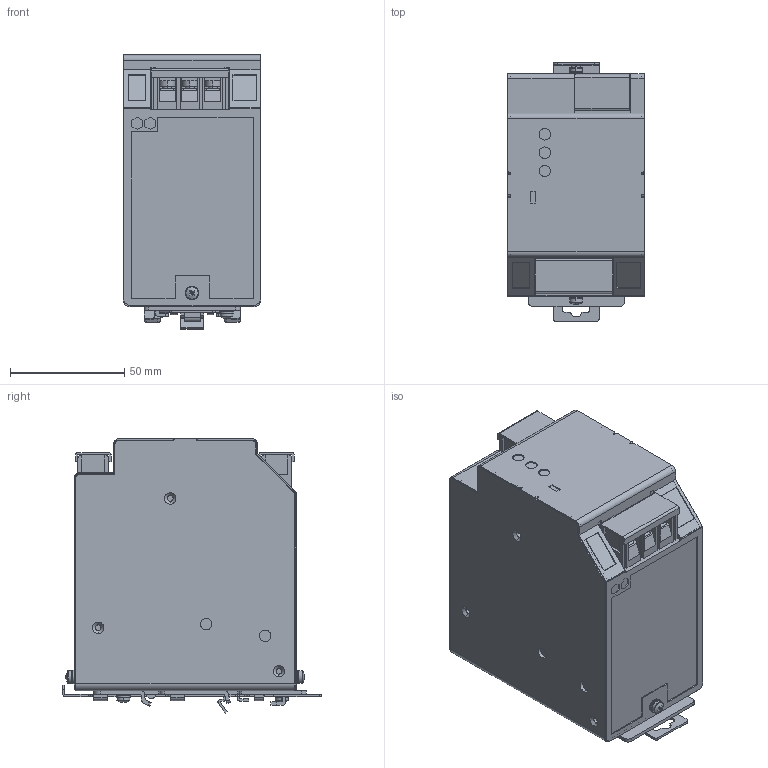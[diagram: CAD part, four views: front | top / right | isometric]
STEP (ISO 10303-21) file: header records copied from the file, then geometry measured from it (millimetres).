
FILE_DESCRIPTION (( 'STEP AP214' ), '1' );
FILE_NAME ('DLP100-24-1_OUTLINE.STEP', '2006-09-13T04:47:37', ( ' ' ), ( ' ' ), 'SwSTEP 2.0', 'SolidWorks 2006104', '' );
FILE_SCHEMA (( 'AUTOMOTIVE_DESIGN' ));
Length unit declared in the file: millimetre
Products named in the file (1): DLP100-24-1_OUTLINE
Bounding box: 60 x 113 x 119.78 mm (x, y, z)
Volume: 604102.7 mm3; surface area: 69657.9 mm2
Topology: 5 solids, 6 shells, 1282 faces, 3486 edges, 2200 vertices
Faces by surface type: plane 811, cylinder 342, cone 70, bspline 59
Entity records: 54846 total; most frequent: CARTESIAN_POINT 8370, ORIENTED_EDGE 6840, DIRECTION 6694, EDGE_CURVE 3420, VECTOR 2322, LINE 2322, VERTEX_POINT 2200, AXIS2_PLACEMENT_3D 2186
